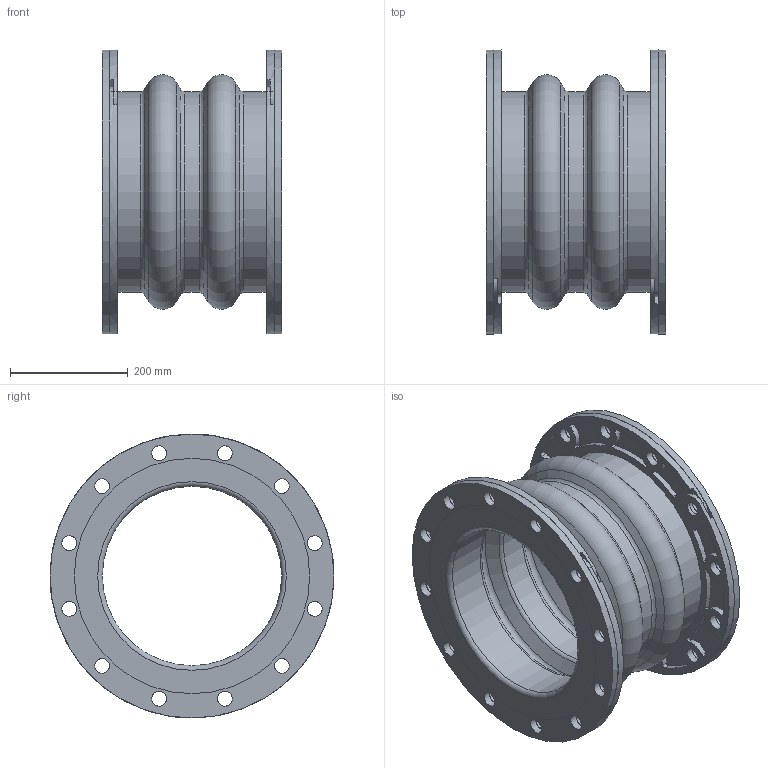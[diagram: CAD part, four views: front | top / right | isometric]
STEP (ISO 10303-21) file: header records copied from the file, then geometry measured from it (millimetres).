
FILE_DESCRIPTION(/* description */ (''),/* implementation_level */ '2;1');
FILE_NAME(/* name */ 'C:\001_Work\Designs\Mercer2014\MQInventor2014\RajR\700 Style\702\STP\702 12IDx12FF.stp',/* time_stamp */ '2016-04-10T12:38:44-04:00',/* author */ ('rramoutar'),/* organization */ ('Mason Industries Inc.'),/* preprocessor_version */ 'ST-DEVELOPER v15.6',/* originating_system */ 'Autodesk Inventor 2015',/* authorisation */ '');
FILE_SCHEMA (('CONFIG_CONTROL_DESIGN'));
Length unit declared in the file: inch
Products named in the file (1): 702 12IDx12FF
Bounding box: 304.8 x 482.62 x 482.62 mm (x, y, z)
Volume: 10593023.6 mm3; surface area: 1662449.2 mm2
Topology: 5 solids, 5 shells, 440 faces, 1186 edges, 784 vertices
Faces by surface type: cylinder 308, plane 110, torus 14, cone 8
Full cylindrical faces by diameter (mm): 25.4 x52, 304.8 x3, 341.312 x3, 482.6 x2
Entity records: 14392 total; most frequent: DIRECTION 2634, CARTESIAN_POINT 2321, ORIENTED_EDGE 2200, EDGE_CURVE 1100, AXIS2_PLACEMENT_3D 1093, VERTEX_POINT 780, EDGE_LOOP 656, CIRCLE 652
